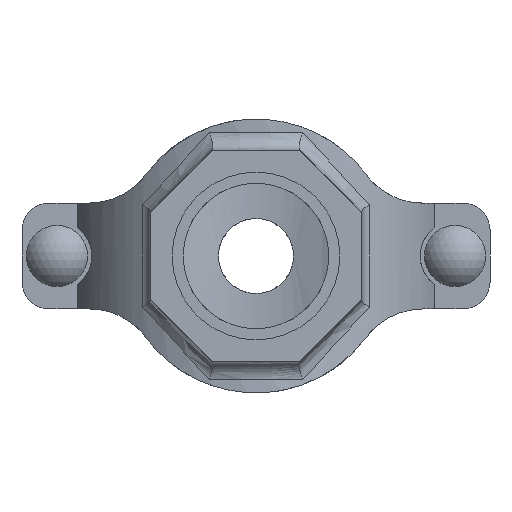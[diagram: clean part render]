
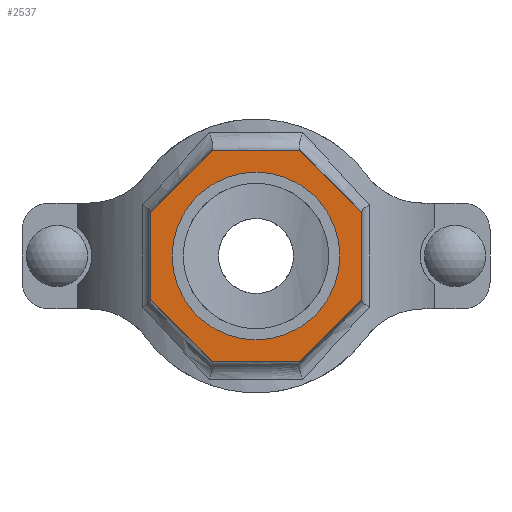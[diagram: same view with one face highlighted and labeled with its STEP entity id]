
A CAD part, front view. The second image highlights one B-rep face of the part: STEP entity #2537.
In plain terms, the highlighted planar face has unit normal (0, -1, 0) as drawn and (0, 1, 0) by its records, which use the part's own axes.
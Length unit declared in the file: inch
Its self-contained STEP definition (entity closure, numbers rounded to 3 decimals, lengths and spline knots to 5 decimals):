
#186=FACE_BOUND('',#457,.T.);
#305=FACE_OUTER_BOUND('',#456,.T.);
#456=EDGE_LOOP('',(#2128,#2129,#2130,#2131,#2132,#2133,#2134,#2135));
#457=EDGE_LOOP('',(#2136));
#594=LINE('',#4751,#780);
#597=LINE('',#4756,#783);
#599=LINE('',#4760,#785);
#601=LINE('',#4764,#787);
#637=LINE('',#5221,#823);
#639=LINE('',#5225,#825);
#641=LINE('',#5229,#827);
#643=LINE('',#5232,#829);
#780=VECTOR('',#3278,0.3937);
#783=VECTOR('',#3283,0.3937);
#785=VECTOR('',#3287,0.3937);
#787=VECTOR('',#3291,0.3937);
#823=VECTOR('',#3419,0.3937);
#825=VECTOR('',#3423,0.3937);
#827=VECTOR('',#3427,0.3937);
#829=VECTOR('',#3431,0.3937);
#919=CIRCLE('',#2802,1.1875);
#1097=VERTEX_POINT('',#4748);
#1098=VERTEX_POINT('',#4750);
#1099=VERTEX_POINT('',#4754);
#1100=VERTEX_POINT('',#4758);
#1101=VERTEX_POINT('',#4762);
#1136=VERTEX_POINT('',#5050);
#1158=VERTEX_POINT('',#5220);
#1159=VERTEX_POINT('',#5224);
#1160=VERTEX_POINT('',#5228);
#1408=EDGE_CURVE('',#1098,#1097,#594,.T.);
#1411=EDGE_CURVE('',#1097,#1099,#597,.T.);
#1413=EDGE_CURVE('',#1099,#1100,#599,.T.);
#1415=EDGE_CURVE('',#1100,#1101,#601,.T.);
#1461=EDGE_CURVE('',#1136,#1136,#919,.T.);
#1491=EDGE_CURVE('',#1158,#1098,#637,.T.);
#1493=EDGE_CURVE('',#1159,#1158,#639,.T.);
#1495=EDGE_CURVE('',#1160,#1159,#641,.T.);
#1497=EDGE_CURVE('',#1101,#1160,#643,.T.);
#2128=ORIENTED_EDGE('',*,*,#1497,.T.);
#2129=ORIENTED_EDGE('',*,*,#1495,.T.);
#2130=ORIENTED_EDGE('',*,*,#1493,.T.);
#2131=ORIENTED_EDGE('',*,*,#1491,.T.);
#2132=ORIENTED_EDGE('',*,*,#1408,.T.);
#2133=ORIENTED_EDGE('',*,*,#1411,.T.);
#2134=ORIENTED_EDGE('',*,*,#1413,.T.);
#2135=ORIENTED_EDGE('',*,*,#1415,.T.);
#2136=ORIENTED_EDGE('',*,*,#1461,.T.);
#2278=PLANE('',#2823);
#2537=ADVANCED_FACE('',(#305,#186),#2278,.T.);
#2802=AXIS2_PLACEMENT_3D('',#5051,#3369,#3370);
#2823=AXIS2_PLACEMENT_3D('',#5233,#3432,#3433);
#3278=DIRECTION('',(0.,0.,1.));
#3283=DIRECTION('',(0.707,0.,0.707));
#3287=DIRECTION('',(1.,0.,0.));
#3291=DIRECTION('',(0.707,0.,-0.707));
#3369=DIRECTION('center_axis',(0.,-1.,0.));
#3370=DIRECTION('ref_axis',(-1.,0.,0.));
#3419=DIRECTION('',(-0.707,0.,0.707));
#3423=DIRECTION('',(-1.,0.,0.));
#3427=DIRECTION('',(-0.707,0.,-0.707));
#3431=DIRECTION('',(0.,0.,-1.));
#3432=DIRECTION('center_axis',(0.,1.,0.));
#3433=DIRECTION('ref_axis',(0.,0.,1.));
#4748=CARTESIAN_POINT('',(-1.5,4.,0.62132));
#4750=CARTESIAN_POINT('',(-1.5,4.,-0.62132));
#4751=CARTESIAN_POINT('',(-1.5,4.,0.62132));
#4754=CARTESIAN_POINT('',(-0.62132,4.,1.5));
#4756=CARTESIAN_POINT('',(-0.62132,4.,1.5));
#4758=CARTESIAN_POINT('',(0.62132,4.,1.5));
#4760=CARTESIAN_POINT('',(0.62132,4.,1.5));
#4762=CARTESIAN_POINT('',(1.5,4.,0.62132));
#4764=CARTESIAN_POINT('',(1.5,4.,0.62132));
#5050=CARTESIAN_POINT('',(1.1875,4.,0.));
#5051=CARTESIAN_POINT('Origin',(0.,4.,0.));
#5220=CARTESIAN_POINT('',(-0.62132,4.,-1.5));
#5221=CARTESIAN_POINT('',(-1.5,4.,-0.62132));
#5224=CARTESIAN_POINT('',(0.62132,4.,-1.5));
#5225=CARTESIAN_POINT('',(-0.62132,4.,-1.5));
#5228=CARTESIAN_POINT('',(1.5,4.,-0.62132));
#5229=CARTESIAN_POINT('',(0.62132,4.,-1.5));
#5232=CARTESIAN_POINT('',(1.5,4.,-0.62132));
#5233=CARTESIAN_POINT('Origin',(0.,4.,0.));
